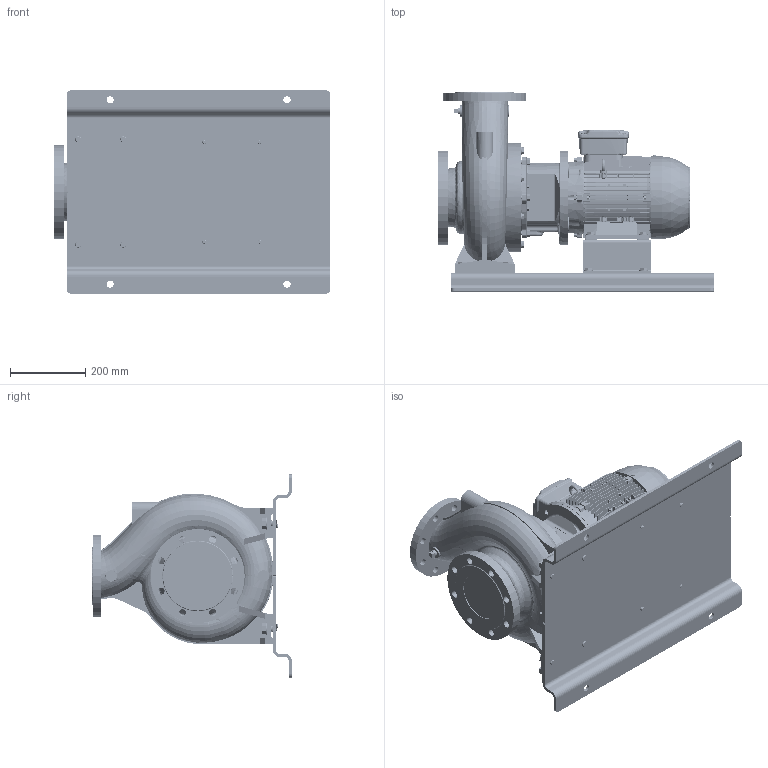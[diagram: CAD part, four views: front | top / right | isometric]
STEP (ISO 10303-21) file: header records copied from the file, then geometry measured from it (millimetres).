
FILE_DESCRIPTION (( 'STEP AP214' ), '1' );
FILE_NAME ('GSD4 100-200_4.0_(112M)_W21_BP.STEP', '2026-05-08T06:20:24', ( '' ), ( '' ), 'SwSTEP 2.0', 'SolidWorks 2024', '' );
FILE_SCHEMA (( 'AUTOMOTIVE_DESIGN' ));
Length unit declared in the file: millimetre
Products named in the file (13): 112M ALIE3_W21T_B35; Parametric bolt and washer_SFT-A253B; GSD4 100-200_4.0_(112M)_W21_BP; Parametric Flat Washer_M16; N6S6 GSDA-662 F1-1832932-00; 140 x 88 - 271472192; Parametric bolt_SFT-A351B; 100-200-112M_ﾃﾞﾌｫﾙﾄ; Parametric bolt_SFT-A249B; Parametric Flat Washer_M10; Parametric bolt and washer_SFT-A249B; Parametric bolt and washer_SFT-A351B; Parametric bolt_SFT-A253B
Assembly tree (22 placements, depth 3):
  GSD4 100-200_4.0_(112M)_W21_BP
    100-200-112M_ﾃﾞﾌｫﾙﾄ
    112M ALIE3_W21T_B35
    N6S6 GSDA-662 F1-1832932-00
    140 x 88 - 271472192
    Parametric bolt and washer_SFT-A351B  x4
      Parametric bolt_SFT-A351B
      Parametric Flat Washer_M16
    Parametric bolt and washer_SFT-A249B  x4
      Parametric bolt_SFT-A249B
      Parametric Flat Washer_M10
    Parametric bolt and washer_SFT-A253B  x4
      Parametric bolt_SFT-A253B
      Parametric Flat Washer_M10
Bounding box: 735 x 530 x 540 mm (x, y, z)
Volume: 35393606.3 mm3; surface area: 2796821.8 mm2
Topology: 38 solids, 40 shells, 5258 faces, 13985 edges, 9083 vertices
Faces by surface type: plane 2703, cylinder 1252, bspline 542, cone 399, torus 351, sphere 11
Entity records: 227951 total; most frequent: CARTESIAN_POINT 114785, ORIENTED_EDGE 25424, DIRECTION 20476, EDGE_CURVE 12712, VERTEX_POINT 8264, LINE 7096, VECTOR 7096, AXIS2_PLACEMENT_3D 6690
